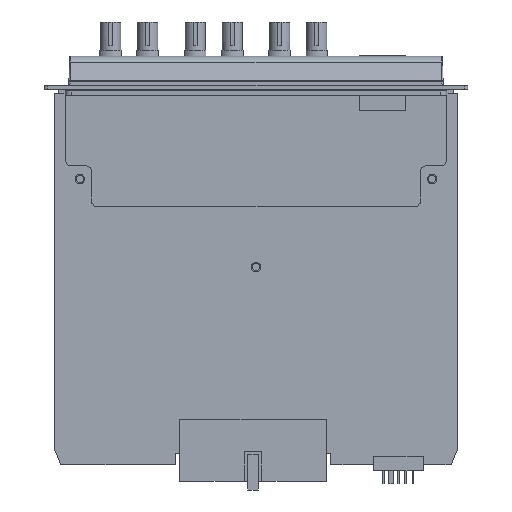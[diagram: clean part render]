
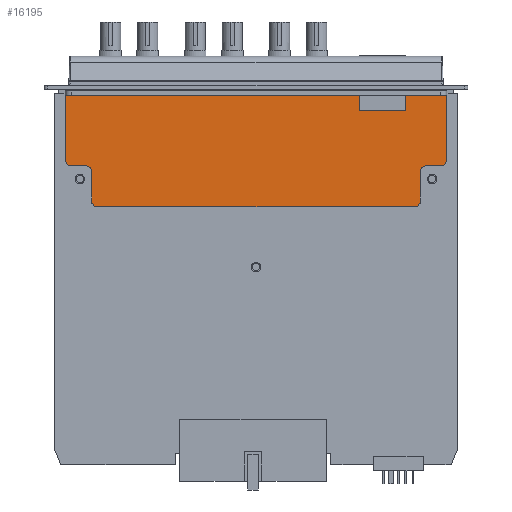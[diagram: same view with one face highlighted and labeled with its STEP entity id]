
A CAD part, left-side view. The second image highlights one B-rep face of the part: STEP entity #16195.
In plain terms, the highlighted planar face has unit normal (-1, 0, 0).
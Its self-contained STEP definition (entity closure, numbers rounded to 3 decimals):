
#2854=DIRECTION('',(0.,0.,1.));
#2855=VECTOR('',#2854,5.17);
#2856=CARTESIAN_POINT('',(-22.9,39.9,-8.47));
#2857=LINE('',#2856,#2855);
#2883=DIRECTION('',(0.,1.,0.));
#2884=VECTOR('',#2883,14.1);
#2885=CARTESIAN_POINT('',(-22.9,10.,-3.3));
#2886=LINE('',#2885,#2884);
#2887=DIRECTION('',(0.,0.,1.));
#2888=VECTOR('',#2887,22.);
#2889=CARTESIAN_POINT('',(-22.9,10.,-25.3));
#2890=LINE('',#2889,#2888);
#2891=CARTESIAN_POINT('',(-22.9,12.,-25.3));
#2892=DIRECTION('',(-1.,0.,0.));
#2893=DIRECTION('',(0.,0.,-1.));
#2894=AXIS2_PLACEMENT_3D('',#2891,#2892,#2893);
#2896=DIRECTION('',(0.,-1.,0.));
#2897=VECTOR('',#2896,5.);
#2898=CARTESIAN_POINT('',(-22.9,17.,-27.3));
#2899=LINE('',#2898,#2897);
#2900=CARTESIAN_POINT('',(-22.9,17.,-29.3));
#2901=DIRECTION('',(1.,0.,0.));
#2902=DIRECTION('',(0.,1.,0.));
#2903=AXIS2_PLACEMENT_3D('',#2900,#2901,#2902);
#2905=DIRECTION('',(0.,0.,1.));
#2906=VECTOR('',#2905,10.);
#2907=CARTESIAN_POINT('',(-22.9,19.,-39.3));
#2908=LINE('',#2907,#2906);
#2909=CARTESIAN_POINT('',(-22.9,21.,-39.3));
#2910=DIRECTION('',(-1.,0.,0.));
#2911=DIRECTION('',(0.,0.,-1.));
#2912=AXIS2_PLACEMENT_3D('',#2909,#2910,#2911);
#2914=DIRECTION('',(0.,-1.,0.));
#2915=VECTOR('',#2914,108.);
#2916=CARTESIAN_POINT('',(-22.9,129.,-41.3));
#2917=LINE('',#2916,#2915);
#2918=CARTESIAN_POINT('',(-22.9,129.,-39.3));
#2919=DIRECTION('',(-1.,0.,0.));
#2920=DIRECTION('',(0.,1.,0.));
#2921=AXIS2_PLACEMENT_3D('',#2918,#2919,#2920);
#2923=DIRECTION('',(0.,0.,-1.));
#2924=VECTOR('',#2923,10.);
#2925=CARTESIAN_POINT('',(-22.9,131.,-29.3));
#2926=LINE('',#2925,#2924);
#2927=CARTESIAN_POINT('',(-22.9,133.,-29.3));
#2928=DIRECTION('',(1.,0.,0.));
#2929=DIRECTION('',(0.,0.,1.));
#2930=AXIS2_PLACEMENT_3D('',#2927,#2928,#2929);
#2932=CARTESIAN_POINT('',(-22.9,138.,-25.3));
#2933=DIRECTION('',(-1.,0.,0.));
#2934=DIRECTION('',(0.,1.,0.));
#2935=AXIS2_PLACEMENT_3D('',#2932,#2933,#2934);
#2937=DIRECTION('',(0.,0.,-1.));
#2938=VECTOR('',#2937,22.);
#2939=CARTESIAN_POINT('',(-22.9,140.,-3.3));
#2940=LINE('',#2939,#2938);
#2941=DIRECTION('',(0.,1.,0.));
#2942=VECTOR('',#2941,100.1);
#2943=CARTESIAN_POINT('',(-22.9,39.9,-3.3));
#2944=LINE('',#2943,#2942);
#2945=DIRECTION('',(0.,0.,1.));
#2946=VECTOR('',#2945,5.17);
#2947=CARTESIAN_POINT('',(-22.9,24.1,-8.47));
#2948=LINE('',#2947,#2946);
#2978=DIRECTION('',(0.,1.,0.));
#2979=VECTOR('',#2978,15.8);
#2980=CARTESIAN_POINT('',(-22.9,24.1,-8.47));
#2981=LINE('',#2980,#2979);
#7233=DIRECTION('',(0.,1.,0.));
#7234=VECTOR('',#7233,5.);
#7235=CARTESIAN_POINT('',(-22.9,133.,-27.3));
#7236=LINE('',#7235,#7234);
#11855=CARTESIAN_POINT('',(-22.9,140.,-25.3));
#11857=VERTEX_POINT('',#11855);
#11859=CARTESIAN_POINT('',(-22.9,133.,-27.3));
#11860=VERTEX_POINT('',#11859);
#11861=CARTESIAN_POINT('',(-22.9,138.,-27.3));
#11862=VERTEX_POINT('',#11861);
#11865=CARTESIAN_POINT('',(-22.9,140.,-3.3));
#11866=VERTEX_POINT('',#11865);
#11867=CARTESIAN_POINT('',(-22.9,131.,-29.3));
#11868=VERTEX_POINT('',#11867);
#11873=CARTESIAN_POINT('',(-22.9,131.,-39.3));
#11874=VERTEX_POINT('',#11873);
#11877=CARTESIAN_POINT('',(-22.9,129.,-41.3));
#11878=VERTEX_POINT('',#11877);
#11887=CARTESIAN_POINT('',(-22.9,10.,-25.3));
#11888=CARTESIAN_POINT('',(-22.9,10.,-3.3));
#11889=VERTEX_POINT('',#11887);
#11890=VERTEX_POINT('',#11888);
#11891=CARTESIAN_POINT('',(-22.9,21.,-41.3));
#11892=VERTEX_POINT('',#11891);
#11899=CARTESIAN_POINT('',(-22.9,12.,-27.3));
#11900=VERTEX_POINT('',#11899);
#11905=CARTESIAN_POINT('',(-22.9,19.,-39.3));
#11906=VERTEX_POINT('',#11905);
#11913=CARTESIAN_POINT('',(-22.9,17.,-27.3));
#11914=VERTEX_POINT('',#11913);
#11919=CARTESIAN_POINT('',(-22.9,19.,-29.3));
#11920=VERTEX_POINT('',#11919);
#13027=CARTESIAN_POINT('',(-22.9,24.1,-8.47));
#13028=CARTESIAN_POINT('',(-22.9,24.1,-3.3));
#13029=VERTEX_POINT('',#13027);
#13030=VERTEX_POINT('',#13028);
#13037=CARTESIAN_POINT('',(-22.9,39.9,-8.47));
#13038=CARTESIAN_POINT('',(-22.9,39.9,-3.3));
#13039=VERTEX_POINT('',#13037);
#13040=VERTEX_POINT('',#13038);
#16153=CARTESIAN_POINT('',(-22.9,0.,0.));
#16154=DIRECTION('',(-1.,0.,0.));
#16155=DIRECTION('',(0.,0.,1.));
#16156=AXIS2_PLACEMENT_3D('',#16153,#16154,#16155);
#16157=PLANE('',#16156);
#16159=ORIENTED_EDGE('',*,*,#16158,.T.);
#16161=ORIENTED_EDGE('',*,*,#16160,.F.);
#16163=ORIENTED_EDGE('',*,*,#16162,.F.);
#16165=ORIENTED_EDGE('',*,*,#16164,.F.);
#16167=ORIENTED_EDGE('',*,*,#16166,.F.);
#16169=ORIENTED_EDGE('',*,*,#16168,.F.);
#16171=ORIENTED_EDGE('',*,*,#16170,.F.);
#16173=ORIENTED_EDGE('',*,*,#16172,.F.);
#16175=ORIENTED_EDGE('',*,*,#16174,.F.);
#16177=ORIENTED_EDGE('',*,*,#16176,.F.);
#16179=ORIENTED_EDGE('',*,*,#16178,.F.);
#16181=ORIENTED_EDGE('',*,*,#16180,.F.);
#16183=ORIENTED_EDGE('',*,*,#16182,.T.);
#16185=ORIENTED_EDGE('',*,*,#16184,.F.);
#16187=ORIENTED_EDGE('',*,*,#16186,.F.);
#16189=ORIENTED_EDGE('',*,*,#16188,.F.);
#16190=ORIENTED_EDGE('',*,*,#16114,.F.);
#16192=ORIENTED_EDGE('',*,*,#16191,.F.);
#16193=EDGE_LOOP('',(#16159,#16161,#16163,#16165,#16167,#16169,#16171,#16173,
#16175,#16177,#16179,#16181,#16183,#16185,#16187,#16189,#16190,#16192));
#16194=FACE_OUTER_BOUND('',#16193,.F.);
#16195=ADVANCED_FACE('',(#16194),#16157,.T.);
#2895=CIRCLE('',#2894,2.);
#2904=CIRCLE('',#2903,2.);
#2913=CIRCLE('',#2912,2.);
#2922=CIRCLE('',#2921,2.);
#2931=CIRCLE('',#2930,2.);
#2936=CIRCLE('',#2935,2.);
#16114=EDGE_CURVE('',#13039,#13040,#2857,.T.);
#16158=EDGE_CURVE('',#13029,#13030,#2948,.T.);
#16160=EDGE_CURVE('',#11890,#13030,#2886,.T.);
#16162=EDGE_CURVE('',#11889,#11890,#2890,.T.);
#16164=EDGE_CURVE('',#11900,#11889,#2895,.T.);
#16166=EDGE_CURVE('',#11914,#11900,#2899,.T.);
#16168=EDGE_CURVE('',#11920,#11914,#2904,.T.);
#16170=EDGE_CURVE('',#11906,#11920,#2908,.T.);
#16172=EDGE_CURVE('',#11892,#11906,#2913,.T.);
#16174=EDGE_CURVE('',#11878,#11892,#2917,.T.);
#16176=EDGE_CURVE('',#11874,#11878,#2922,.T.);
#16178=EDGE_CURVE('',#11868,#11874,#2926,.T.);
#16180=EDGE_CURVE('',#11860,#11868,#2931,.T.);
#16182=EDGE_CURVE('',#11860,#11862,#7236,.T.);
#16184=EDGE_CURVE('',#11857,#11862,#2936,.T.);
#16186=EDGE_CURVE('',#11866,#11857,#2940,.T.);
#16188=EDGE_CURVE('',#13040,#11866,#2944,.T.);
#16191=EDGE_CURVE('',#13029,#13039,#2981,.T.);
